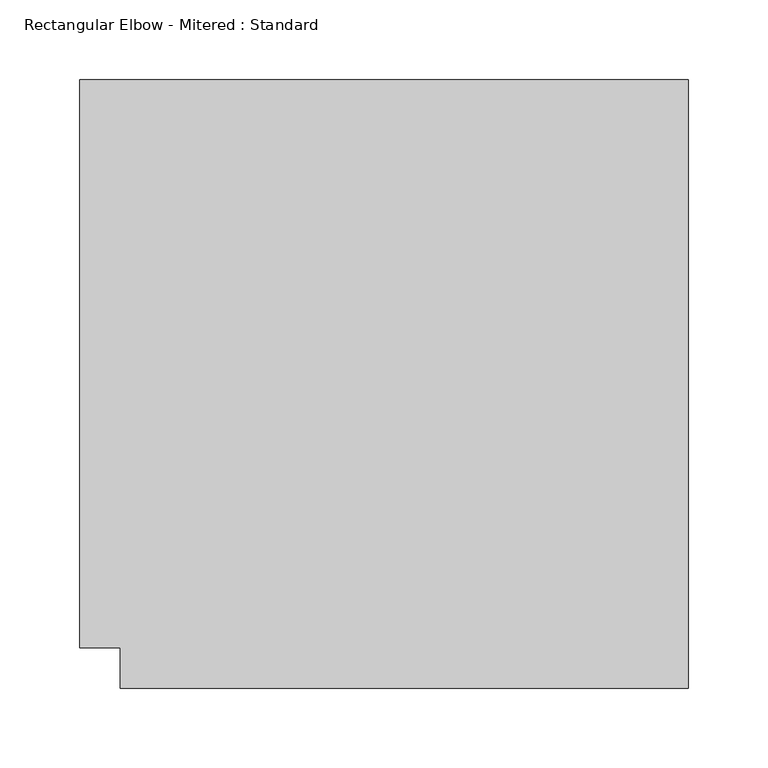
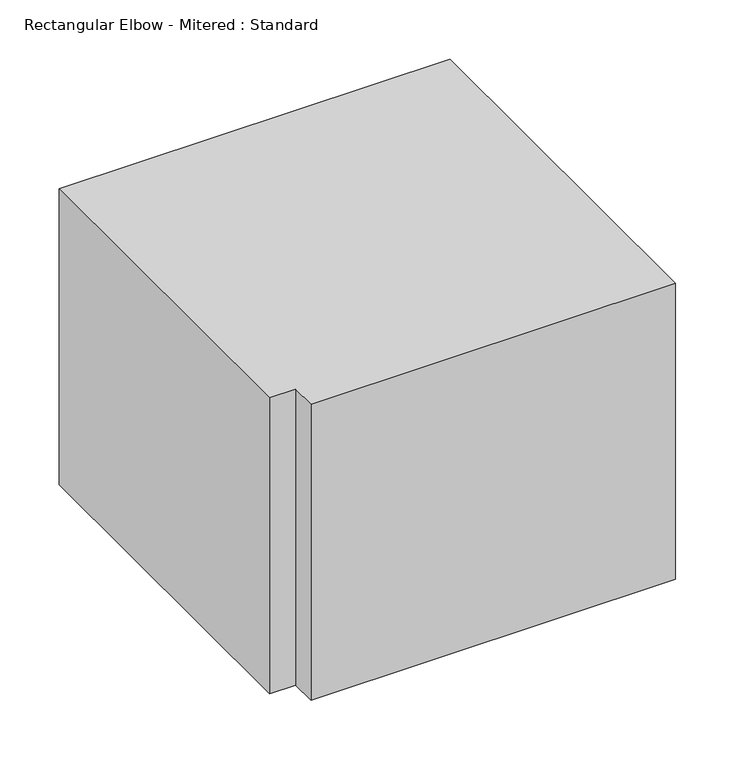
"""IFC4 building model written with IfcOpenShell, lengths in millimetres: duct fitting geometry, Rectangular Elbow - Mitered : Standard."""

from ifc_helpers import new_model, si_unit, frame, origin, place, context, project, spatial, polyline, outline, extrude, source, transform, mapped, element, save


def rectangular_elbow_mitered_standard_d7f068f4(model_context):
    return source(origin(), model_context, "Body", "SweptSolid", [
        extrude(outline(polyline([(-203.2, 177.8), (177.8, 177.8), (177.8, -203.2), (-177.8, -203.2), (-177.8, -177.8), (-203.2, -177.8), (-203.2, 177.8)])), frame((0.0, 0.0, -152.4), z_axis=(0.0, 0.0, 1.0), x_axis=(1.0, 0.0, 0.0)), (0.0, 0.0, 1.0), 304.8),
    ])


if __name__ == "__main__":
    model = new_model("IFC4")
    model_context = context("Model", 3, world=origin())
    ifc_project = project(units=[si_unit("LENGTHUNIT", "METRE", prefix="MILLI")], contexts=[model_context])
    site = spatial("IfcSite", under=ifc_project)
    building = spatial("IfcBuilding", under=site)
    placement = place(None, origin())
    rectangular_elbow_mitered_standard_shape = rectangular_elbow_mitered_standard_d7f068f4(model_context)
    element("IfcDuctFitting", 1, ObjectType="Rectangular Elbow - Mitered : Standard", at=placement, inside=building, context=model_context, shape_type="MappedRepresentation", body=[
        mapped(rectangular_elbow_mitered_standard_shape, transform((0.0, 0.0, 0.0), x_axis=(1.0, 0.0, 0.0), y_axis=(0.0, 1.0, 0.0), z_axis=(0.0, 0.0, 1.0))),
    ])
    save(model, "model.ifc")
